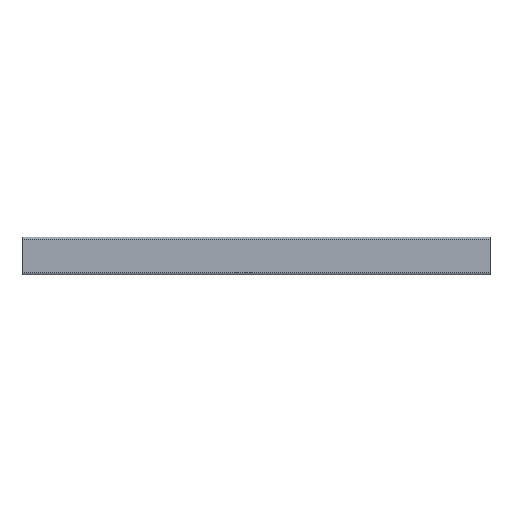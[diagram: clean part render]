
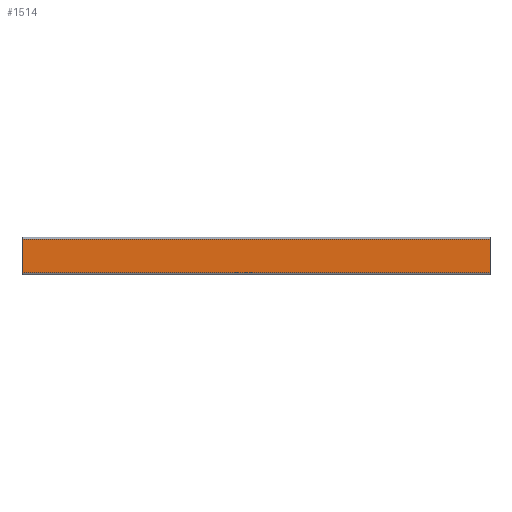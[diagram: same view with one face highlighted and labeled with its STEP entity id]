
A CAD part, front view. The second image highlights one B-rep face of the part: STEP entity #1514.
In plain terms, the highlighted planar face has unit normal (0, -1, 0).
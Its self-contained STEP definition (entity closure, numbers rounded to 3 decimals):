
#43 = CARTESIAN_POINT ( 'NONE',  ( 1000., -40., 36. ) ) ;
#1309 = VERTEX_POINT ( 'NONE', #10386 ) ;
#1400 = ORIENTED_EDGE ( 'NONE', *, *, #5587, .T. ) ;
#1408 = CARTESIAN_POINT ( 'NONE',  ( 1000., -40., -36. ) ) ;
#1514 = ADVANCED_FACE ( 'NONE', ( #4839 ), #8687, .F. ) ;
#1806 = EDGE_CURVE ( 'NONE', #5421, #1309, #8788, .T. ) ;
#1930 = LINE ( 'NONE', #9594, #10683 ) ;
#2324 = VERTEX_POINT ( 'NONE', #2632 ) ;
#2506 = EDGE_CURVE ( 'NONE', #3759, #2324, #1930, .T. ) ;
#2632 = CARTESIAN_POINT ( 'NONE',  ( 0., -40., 36. ) ) ;
#2687 = DIRECTION ( 'NONE',  ( 0., 0., -1. ) ) ;
#2829 = DIRECTION ( 'NONE',  ( 0., 0., 1. ) ) ;
#3502 = DIRECTION ( 'NONE',  ( -1., 0., 0. ) ) ;
#3528 = ORIENTED_EDGE ( 'NONE', *, *, #2506, .T. ) ;
#3599 = AXIS2_PLACEMENT_3D ( 'NONE', #4809, #5042, #2829 ) ;
#3759 = VERTEX_POINT ( 'NONE', #4382 ) ;
#4135 = VECTOR ( 'NONE', #8401, 1000. ) ;
#4227 = CARTESIAN_POINT ( 'NONE',  ( 0., -40., 36. ) ) ;
#4382 = CARTESIAN_POINT ( 'NONE',  ( 1000., -40., 36. ) ) ;
#4660 = EDGE_LOOP ( 'NONE', ( #1400, #9441, #9379, #3528 ) ) ;
#4809 = CARTESIAN_POINT ( 'NONE',  ( 1000., -40., 36. ) ) ;
#4839 = FACE_OUTER_BOUND ( 'NONE', #4660, .T. ) ;
#5042 = DIRECTION ( 'NONE',  ( 0., 1., 0. ) ) ;
#5128 = DIRECTION ( 'NONE',  ( 0., 0., -1. ) ) ;
#5421 = VERTEX_POINT ( 'NONE', #9143 ) ;
#5465 = VECTOR ( 'NONE', #2687, 1000. ) ;
#5587 = EDGE_CURVE ( 'NONE', #2324, #1309, #9729, .T. ) ;
#7414 = VECTOR ( 'NONE', #5128, 1000. ) ;
#8401 = DIRECTION ( 'NONE',  ( -1., 0., 0. ) ) ;
#8687 = PLANE ( 'NONE',  #3599 ) ;
#8788 = LINE ( 'NONE', #1408, #4135 ) ;
#9143 = CARTESIAN_POINT ( 'NONE',  ( 1000., -40., -36. ) ) ;
#9379 = ORIENTED_EDGE ( 'NONE', *, *, #10320, .F. ) ;
#9441 = ORIENTED_EDGE ( 'NONE', *, *, #1806, .F. ) ;
#9594 = CARTESIAN_POINT ( 'NONE',  ( 1000., -40., 36. ) ) ;
#9729 = LINE ( 'NONE', #4227, #7414 ) ;
#9815 = LINE ( 'NONE', #43, #5465 ) ;
#10320 = EDGE_CURVE ( 'NONE', #3759, #5421, #9815, .T. ) ;
#10386 = CARTESIAN_POINT ( 'NONE',  ( 0., -40., -36. ) ) ;
#10683 = VECTOR ( 'NONE', #3502, 1000. ) ;
